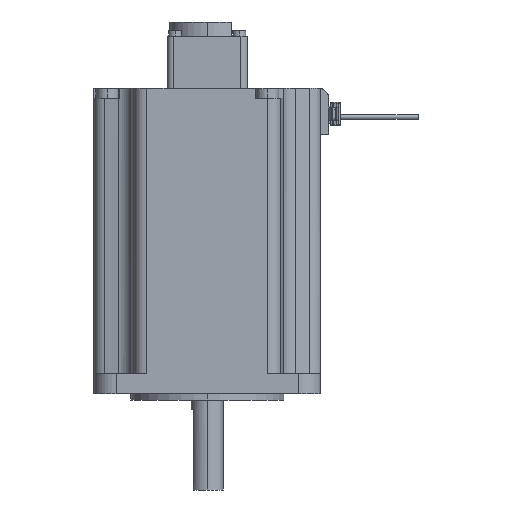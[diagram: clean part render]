
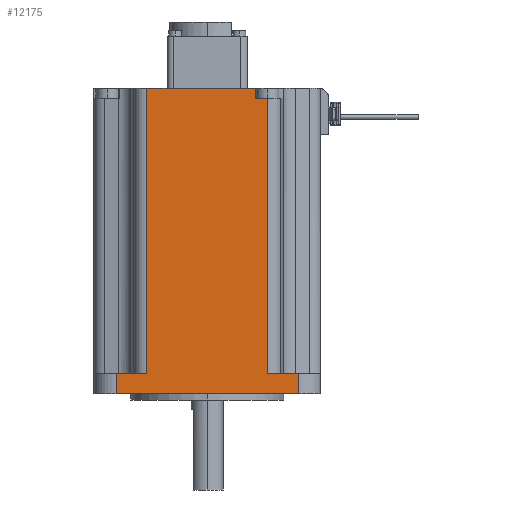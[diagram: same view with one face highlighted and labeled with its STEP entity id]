
A CAD part, left-side view. The second image highlights one B-rep face of the part: STEP entity #12175.
In plain terms, the highlighted planar face has unit normal (-1, 0, 0).
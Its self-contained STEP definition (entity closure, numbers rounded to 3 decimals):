
#65 = VERTEX_POINT ( 'NONE', #1139 ) ;
#445 = CARTESIAN_POINT ( 'NONE',  ( -28.2, 15.002, 76. ) ) ;
#1121 = VERTEX_POINT ( 'NONE', #12404 ) ;
#1139 = CARTESIAN_POINT ( 'NONE',  ( -28.2, -12., 73.5 ) ) ;
#1241 = EDGE_CURVE ( 'NONE', #13201, #9708, #1899, .T. ) ;
#1259 = LINE ( 'NONE', #5817, #1967 ) ;
#1629 = DIRECTION ( 'NONE',  ( 0., -1., 0. ) ) ;
#1631 = DIRECTION ( 'NONE',  ( 0., 0., -1. ) ) ;
#1744 = CARTESIAN_POINT ( 'NONE',  ( -28.2, 22.7, 5. ) ) ;
#1899 = LINE ( 'NONE', #9673, #10533 ) ;
#1967 = VECTOR ( 'NONE', #10436, 1000. ) ;
#1985 = DIRECTION ( 'NONE',  ( 0., -1., 0. ) ) ;
#2555 = LINE ( 'NONE', #7835, #8055 ) ;
#2614 = PLANE ( 'NONE',  #13829 ) ;
#2731 = EDGE_CURVE ( 'NONE', #9887, #13201, #12529, .T. ) ;
#3140 = LINE ( 'NONE', #5209, #12425 ) ;
#3230 = VECTOR ( 'NONE', #1985, 1000. ) ;
#3291 = ORIENTED_EDGE ( 'NONE', *, *, #4653, .T. ) ;
#3413 = VECTOR ( 'NONE', #11108, 1000. ) ;
#3508 = CARTESIAN_POINT ( 'NONE',  ( -28.2, -28.2, 0. ) ) ;
#3585 = CARTESIAN_POINT ( 'NONE',  ( -28.2, 15.002, 76. ) ) ;
#3918 = VECTOR ( 'NONE', #1631, 1000. ) ;
#4093 = VERTEX_POINT ( 'NONE', #1744 ) ;
#4200 = CARTESIAN_POINT ( 'NONE',  ( -28.2, -12., 76. ) ) ;
#4422 = EDGE_CURVE ( 'NONE', #4093, #9698, #12215, .T. ) ;
#4589 = DIRECTION ( 'NONE',  ( 0., 1., 0. ) ) ;
#4653 = EDGE_CURVE ( 'NONE', #10703, #9698, #7497, .T. ) ;
#4935 = CARTESIAN_POINT ( 'NONE',  ( -28.2, -15.002, 64.5 ) ) ;
#5209 = CARTESIAN_POINT ( 'NONE',  ( -28.2, 22.7, 5. ) ) ;
#5212 = ORIENTED_EDGE ( 'NONE', *, *, #1241, .T. ) ;
#5817 = CARTESIAN_POINT ( 'NONE',  ( -28.2, -12., 73.5 ) ) ;
#6077 = ORIENTED_EDGE ( 'NONE', *, *, #4422, .F. ) ;
#6266 = EDGE_LOOP ( 'NONE', ( #3291, #6077, #9438, #11854, #5212, #9419, #9756, #8008, #10446, #12939 ) ) ;
#6400 = EDGE_CURVE ( 'NONE', #65, #12870, #2555, .T. ) ;
#6607 = CARTESIAN_POINT ( 'NONE',  ( -28.2, -28.2, 5. ) ) ;
#7279 = CARTESIAN_POINT ( 'NONE',  ( -28.2, 15.002, 64.5 ) ) ;
#7467 = VECTOR ( 'NONE', #1629, 1000. ) ;
#7489 = CARTESIAN_POINT ( 'NONE',  ( -28.2, -22.7, 0. ) ) ;
#7497 = LINE ( 'NONE', #7279, #8105 ) ;
#7835 = CARTESIAN_POINT ( 'NONE',  ( -28.2, -12., 73.5 ) ) ;
#7969 = DIRECTION ( 'NONE',  ( 1., 0., 0. ) ) ;
#8008 = ORIENTED_EDGE ( 'NONE', *, *, #8198, .F. ) ;
#8055 = VECTOR ( 'NONE', #9005, 1000. ) ;
#8105 = VECTOR ( 'NONE', #9475, 1000. ) ;
#8198 = EDGE_CURVE ( 'NONE', #65, #1121, #1259, .T. ) ;
#9005 = DIRECTION ( 'NONE',  ( 0., 0., 1. ) ) ;
#9419 = ORIENTED_EDGE ( 'NONE', *, *, #14337, .F. ) ;
#9438 = ORIENTED_EDGE ( 'NONE', *, *, #12134, .T. ) ;
#9475 = DIRECTION ( 'NONE',  ( 0., 0., -1. ) ) ;
#9673 = CARTESIAN_POINT ( 'NONE',  ( -28.2, -22.7, 5. ) ) ;
#9698 = VERTEX_POINT ( 'NONE', #13117 ) ;
#9708 = VERTEX_POINT ( 'NONE', #14293 ) ;
#9756 = ORIENTED_EDGE ( 'NONE', *, *, #14211, .F. ) ;
#9887 = VERTEX_POINT ( 'NONE', #11485 ) ;
#10172 = FACE_OUTER_BOUND ( 'NONE', #6266, .T. ) ;
#10235 = VECTOR ( 'NONE', #11587, 1000. ) ;
#10420 = EDGE_CURVE ( 'NONE', #10703, #12870, #10430, .T. ) ;
#10430 = LINE ( 'NONE', #445, #7467 ) ;
#10436 = DIRECTION ( 'NONE',  ( 0., -1., 0. ) ) ;
#10446 = ORIENTED_EDGE ( 'NONE', *, *, #6400, .T. ) ;
#10533 = VECTOR ( 'NONE', #10577, 1000. ) ;
#10577 = DIRECTION ( 'NONE',  ( 0., 0., 1. ) ) ;
#10703 = VERTEX_POINT ( 'NONE', #3585 ) ;
#11108 = DIRECTION ( 'NONE',  ( 0., -1., 0. ) ) ;
#11320 = CARTESIAN_POINT ( 'NONE',  ( -28.2, -28.2, 5. ) ) ;
#11485 = CARTESIAN_POINT ( 'NONE',  ( -28.2, 22.7, 0. ) ) ;
#11587 = DIRECTION ( 'NONE',  ( 0., -1., 0. ) ) ;
#11691 = LINE ( 'NONE', #4935, #3918 ) ;
#11854 = ORIENTED_EDGE ( 'NONE', *, *, #2731, .T. ) ;
#11954 = DIRECTION ( 'NONE',  ( 0., 0., -1. ) ) ;
#12134 = EDGE_CURVE ( 'NONE', #4093, #9887, #3140, .T. ) ;
#12175 = ADVANCED_FACE ( 'NONE', ( #10172 ), #2614, .F. ) ;
#12215 = LINE ( 'NONE', #11320, #3413 ) ;
#12404 = CARTESIAN_POINT ( 'NONE',  ( -28.2, -15.002, 73.5 ) ) ;
#12425 = VECTOR ( 'NONE', #11954, 1000. ) ;
#12517 = CARTESIAN_POINT ( 'NONE',  ( -28.2, 15.002, 64.5 ) ) ;
#12529 = LINE ( 'NONE', #3508, #10235 ) ;
#12870 = VERTEX_POINT ( 'NONE', #4200 ) ;
#12939 = ORIENTED_EDGE ( 'NONE', *, *, #10420, .F. ) ;
#13117 = CARTESIAN_POINT ( 'NONE',  ( -28.2, 15.002, 5. ) ) ;
#13201 = VERTEX_POINT ( 'NONE', #7489 ) ;
#13733 = VERTEX_POINT ( 'NONE', #13825 ) ;
#13825 = CARTESIAN_POINT ( 'NONE',  ( -28.2, -15.002, 5. ) ) ;
#13829 = AXIS2_PLACEMENT_3D ( 'NONE', #12517, #7969, #4589 ) ;
#14211 = EDGE_CURVE ( 'NONE', #1121, #13733, #11691, .T. ) ;
#14293 = CARTESIAN_POINT ( 'NONE',  ( -28.2, -22.7, 5. ) ) ;
#14337 = EDGE_CURVE ( 'NONE', #13733, #9708, #14459, .T. ) ;
#14459 = LINE ( 'NONE', #6607, #3230 ) ;
